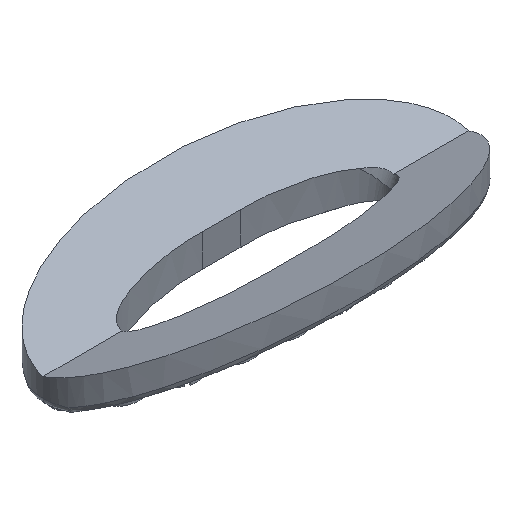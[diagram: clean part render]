
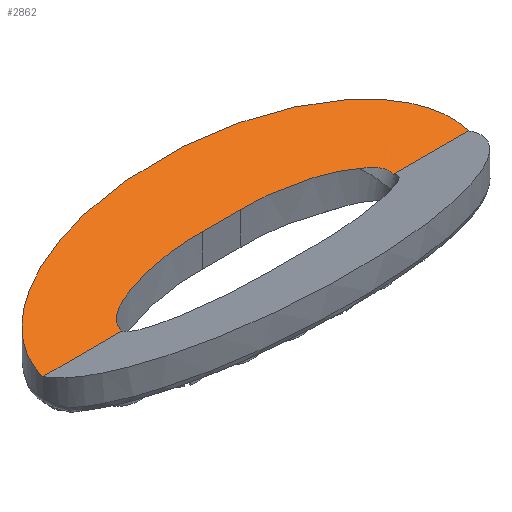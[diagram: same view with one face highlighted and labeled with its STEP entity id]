
A CAD part, isometric view. The second image highlights one B-rep face of the part: STEP entity #2862.
In plain terms, the highlighted planar face has unit normal (0, -0.322, 0.947).
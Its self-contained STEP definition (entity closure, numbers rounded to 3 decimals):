
#144=ELLIPSE('',#3103,9.996,4.814);
#286=PLANE('',#3168);
#469=FACE_OUTER_BOUND('',#679,.T.);
#679=EDGE_LOOP('',(#2618,#2619,#2620,#2621,#2622,#2623,#2624));
#807=LINE('',#4636,#1038);
#809=LINE('',#4671,#1040);
#900=LINE('',#5430,#1131);
#1038=VECTOR('',#3582,10.);
#1040=VECTOR('',#3584,10.);
#1131=VECTOR('',#3919,10.);
#1152=B_SPLINE_CURVE_WITH_KNOTS('',3,(#4168,#4169,#4170,#4171,#4172,#4173),
 .UNSPECIFIED.,.F.,.F.,(4,2,4),(0.012,0.123,0.254),
 .UNSPECIFIED.);
#1178=B_SPLINE_CURVE_WITH_KNOTS('',3,(#5256,#5257,#5258,#5259,#5260,#5261,
#5262,#5263,#5264,#5265,#5266,#5267,#5268,#5269,#5270,#5271,#5272,#5273,
#5274,#5275,#5276,#5277,#5278,#5279,#5280,#5281,#5282,#5283,#5284,#5285,
#5286,#5287,#5288,#5289,#5290,#5291,#5292,#5293,#5294,#5295,#5296,#5297,
#5298,#5299,#5300,#5301,#5302,#5303,#5304,#5305,#5306,#5307),
 .UNSPECIFIED.,.F.,.F.,(4,3,3,3,3,3,3,3,3,3,3,3,3,3,3,3,3,4),(0.156,
0.163,0.169,0.171,0.172,
0.185,0.195,0.203,0.213,
0.217,0.228,0.239,0.25,
0.267,0.283,0.285,0.295,0.311),
 .UNSPECIFIED.);
#1181=B_SPLINE_CURVE_WITH_KNOTS('',3,(#5503,#5504,#5505,#5506,#5507,#5508,
#5509,#5510,#5511,#5512,#5513,#5514,#5515,#5516),.UNSPECIFIED.,.F.,.F.,
(4,2,2,2,2,2,4),(0.534,0.55,0.581,
0.606,0.634,0.685,0.734),
 .UNSPECIFIED.);
#1192=VERTEX_POINT('',#4138);
#1193=VERTEX_POINT('',#4167);
#1339=VERTEX_POINT('',#4634);
#1340=VERTEX_POINT('',#4635);
#1342=VERTEX_POINT('',#4655);
#1343=VERTEX_POINT('',#4670);
#1431=VERTEX_POINT('',#5429);
#1450=EDGE_CURVE('',#1192,#1193,#1152,.F.);
#1649=EDGE_CURVE('',#1339,#1340,#807,.T.);
#1653=EDGE_CURVE('',#1343,#1342,#809,.T.);
#1766=EDGE_CURVE('',#1343,#1340,#144,.T.);
#1783=EDGE_CURVE('',#1339,#1192,#1178,.T.);
#1814=EDGE_CURVE('',#1193,#1431,#900,.F.);
#1816=EDGE_CURVE('',#1431,#1342,#1181,.F.);
#2618=ORIENTED_EDGE('',*,*,#1649,.T.);
#2619=ORIENTED_EDGE('',*,*,#1766,.F.);
#2620=ORIENTED_EDGE('',*,*,#1653,.T.);
#2621=ORIENTED_EDGE('',*,*,#1816,.F.);
#2622=ORIENTED_EDGE('',*,*,#1814,.F.);
#2623=ORIENTED_EDGE('',*,*,#1450,.F.);
#2624=ORIENTED_EDGE('',*,*,#1783,.F.);
#2862=ADVANCED_FACE('',(#469),#286,.F.);
#3103=AXIS2_PLACEMENT_3D('',#5060,#3816,#3817);
#3168=AXIS2_PLACEMENT_3D('',#5569,#3984,#3985);
#3582=DIRECTION('',(1.,0.,0.));
#3584=DIRECTION('',(1.,0.,0.));
#3816=DIRECTION('center_axis',(0.,0.322,-0.947));
#3817=DIRECTION('ref_axis',(1.,0.,0.));
#3919=DIRECTION('',(1.,0.,0.));
#3984=DIRECTION('center_axis',(0.,0.322,-0.947));
#3985=DIRECTION('ref_axis',(0.,0.947,0.322));
#4138=CARTESIAN_POINT('',(47.143,0.782,38.71));
#4167=CARTESIAN_POINT('',(42.395,1.613,38.993));
#4168=CARTESIAN_POINT('Ctrl Pts',(42.395,1.613,38.993));
#4169=CARTESIAN_POINT('Ctrl Pts',(42.813,1.624,38.996));
#4170=CARTESIAN_POINT('Ctrl Pts',(43.448,1.627,38.997));
#4171=CARTESIAN_POINT('Ctrl Pts',(45.307,1.391,38.917));
#4172=CARTESIAN_POINT('Ctrl Pts',(46.464,1.128,38.828));
#4173=CARTESIAN_POINT('Ctrl Pts',(47.143,0.782,38.71));
#4634=CARTESIAN_POINT('',(47.96,0.016,38.449));
#4635=CARTESIAN_POINT('',(51.498,0.016,38.449));
#4636=CARTESIAN_POINT('',(1.038,0.016,38.449));
#4655=CARTESIAN_POINT('',(35.207,0.016,38.449));
#4670=CARTESIAN_POINT('',(31.505,0.016,38.449));
#4671=CARTESIAN_POINT('',(1.038,0.016,38.449));
#5060=CARTESIAN_POINT('Origin',(41.502,0.008,38.447));
#5256=CARTESIAN_POINT('Ctrl Pts',(47.958,0.019,38.45));
#5257=CARTESIAN_POINT('Ctrl Pts',(47.959,0.035,38.456));
#5258=CARTESIAN_POINT('Ctrl Pts',(47.96,0.051,38.461));
#5259=CARTESIAN_POINT('Ctrl Pts',(47.959,0.067,38.467));
#5260=CARTESIAN_POINT('Ctrl Pts',(47.958,0.082,38.472));
#5261=CARTESIAN_POINT('Ctrl Pts',(47.956,0.098,38.477));
#5262=CARTESIAN_POINT('Ctrl Pts',(47.954,0.113,38.483));
#5263=CARTESIAN_POINT('Ctrl Pts',(47.953,0.117,38.484));
#5264=CARTESIAN_POINT('Ctrl Pts',(47.952,0.12,38.485));
#5265=CARTESIAN_POINT('Ctrl Pts',(47.952,0.124,38.486));
#5266=CARTESIAN_POINT('Ctrl Pts',(47.951,0.127,38.487));
#5267=CARTESIAN_POINT('Ctrl Pts',(47.95,0.13,38.488));
#5268=CARTESIAN_POINT('Ctrl Pts',(47.95,0.133,38.489));
#5269=CARTESIAN_POINT('Ctrl Pts',(47.943,0.164,38.5));
#5270=CARTESIAN_POINT('Ctrl Pts',(47.933,0.194,38.51));
#5271=CARTESIAN_POINT('Ctrl Pts',(47.921,0.222,38.519));
#5272=CARTESIAN_POINT('Ctrl Pts',(47.911,0.244,38.526));
#5273=CARTESIAN_POINT('Ctrl Pts',(47.9,0.265,38.533));
#5274=CARTESIAN_POINT('Ctrl Pts',(47.888,0.286,38.54));
#5275=CARTESIAN_POINT('Ctrl Pts',(47.877,0.304,38.546));
#5276=CARTESIAN_POINT('Ctrl Pts',(47.864,0.323,38.552));
#5277=CARTESIAN_POINT('Ctrl Pts',(47.851,0.34,38.557));
#5278=CARTESIAN_POINT('Ctrl Pts',(47.836,0.359,38.564));
#5279=CARTESIAN_POINT('Ctrl Pts',(47.821,0.377,38.569));
#5280=CARTESIAN_POINT('Ctrl Pts',(47.805,0.394,38.575));
#5281=CARTESIAN_POINT('Ctrl Pts',(47.797,0.402,38.578));
#5282=CARTESIAN_POINT('Ctrl Pts',(47.789,0.41,38.58));
#5283=CARTESIAN_POINT('Ctrl Pts',(47.781,0.418,38.583));
#5284=CARTESIAN_POINT('Ctrl Pts',(47.762,0.437,38.589));
#5285=CARTESIAN_POINT('Ctrl Pts',(47.741,0.455,38.595));
#5286=CARTESIAN_POINT('Ctrl Pts',(47.719,0.472,38.601));
#5287=CARTESIAN_POINT('Ctrl Pts',(47.696,0.491,38.608));
#5288=CARTESIAN_POINT('Ctrl Pts',(47.671,0.509,38.614));
#5289=CARTESIAN_POINT('Ctrl Pts',(47.646,0.526,38.62));
#5290=CARTESIAN_POINT('Ctrl Pts',(47.623,0.542,38.626));
#5291=CARTESIAN_POINT('Ctrl Pts',(47.599,0.558,38.631));
#5292=CARTESIAN_POINT('Ctrl Pts',(47.574,0.572,38.636));
#5293=CARTESIAN_POINT('Ctrl Pts',(47.536,0.596,38.645));
#5294=CARTESIAN_POINT('Ctrl Pts',(47.495,0.618,38.653));
#5295=CARTESIAN_POINT('Ctrl Pts',(47.455,0.639,38.66));
#5296=CARTESIAN_POINT('Ctrl Pts',(47.418,0.658,38.667));
#5297=CARTESIAN_POINT('Ctrl Pts',(47.381,0.676,38.673));
#5298=CARTESIAN_POINT('Ctrl Pts',(47.344,0.693,38.679));
#5299=CARTESIAN_POINT('Ctrl Pts',(47.34,0.695,38.68));
#5300=CARTESIAN_POINT('Ctrl Pts',(47.336,0.697,38.681));
#5301=CARTESIAN_POINT('Ctrl Pts',(47.332,0.699,38.682));
#5302=CARTESIAN_POINT('Ctrl Pts',(47.308,0.71,38.685));
#5303=CARTESIAN_POINT('Ctrl Pts',(47.284,0.721,38.689));
#5304=CARTESIAN_POINT('Ctrl Pts',(47.26,0.732,38.693));
#5305=CARTESIAN_POINT('Ctrl Pts',(47.221,0.749,38.699));
#5306=CARTESIAN_POINT('Ctrl Pts',(47.182,0.766,38.704));
#5307=CARTESIAN_POINT('Ctrl Pts',(47.143,0.782,38.71));
#5429=CARTESIAN_POINT('',(40.6,1.613,38.993));
#5430=CARTESIAN_POINT('',(20.824,1.613,38.993));
#5503=CARTESIAN_POINT('Ctrl Pts',(35.207,0.016,38.449));
#5504=CARTESIAN_POINT('Ctrl Pts',(35.208,0.06,38.465));
#5505=CARTESIAN_POINT('Ctrl Pts',(35.214,0.105,38.48));
#5506=CARTESIAN_POINT('Ctrl Pts',(35.246,0.235,38.524));
#5507=CARTESIAN_POINT('Ctrl Pts',(35.286,0.316,38.551));
#5508=CARTESIAN_POINT('Ctrl Pts',(35.381,0.447,38.596));
#5509=CARTESIAN_POINT('Ctrl Pts',(35.452,0.527,38.623));
#5510=CARTESIAN_POINT('Ctrl Pts',(35.748,0.734,38.694));
#5511=CARTESIAN_POINT('Ctrl Pts',(35.968,0.85,38.733));
#5512=CARTESIAN_POINT('Ctrl Pts',(36.905,1.197,38.851));
#5513=CARTESIAN_POINT('Ctrl Pts',(37.781,1.401,38.92));
#5514=CARTESIAN_POINT('Ctrl Pts',(39.539,1.627,38.997));
#5515=CARTESIAN_POINT('Ctrl Pts',(40.181,1.624,38.996));
#5516=CARTESIAN_POINT('Ctrl Pts',(40.6,1.613,38.993));
#5569=CARTESIAN_POINT('Origin',(1.038,0.016,38.449));
